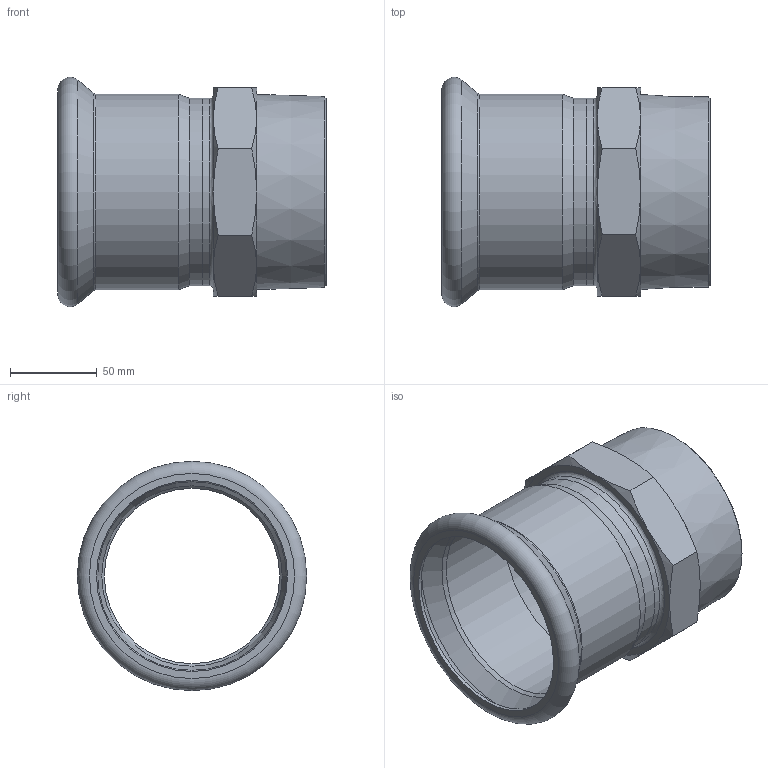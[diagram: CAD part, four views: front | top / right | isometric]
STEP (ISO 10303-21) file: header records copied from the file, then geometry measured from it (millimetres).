
FILE_DESCRIPTION((''),'2;1');
FILE_NAME('G:\Nirosan-Schmiedefeld\Technics\CAD\Bauteile VA\108\69243G1084(1).stp','2009-05-08T09:56:14',('herberg'),(''),'Autodesk Inventor 2009','Autodesk Inventor 2009','');
FILE_SCHEMA(('AUTOMOTIVE_DESIGN { 1 0 10303 214 1 1 1 1 }'));
Length unit declared in the file: millimetre
Products named in the file (3): 69243G1084(1); HM_69243108(0); AG1084(1)
Assembly tree (2 placements, depth 2):
  69243G1084(1)
    HM_69243108(0)
    AG1084(1)
Bounding box: 154.5 x 132.19 x 132.19 mm (x, y, z)
Volume: 228767.4 mm3; surface area: 122920.5 mm2
Topology: 2 solids, 2 shells, 52 faces, 108 edges, 63 vertices
Faces by surface type: cone 23, plane 15, cylinder 6, bspline 6, torus 2
Full cylindrical faces by diameter (mm): 104 x1, 108 x2, 108.7 x1, 110 x1, 112.7 x1
Entity records: 1435 total; most frequent: CARTESIAN_POINT 446, DIRECTION 196, ORIENTED_EDGE 166, AXIS2_PLACEMENT_3D 94, EDGE_CURVE 83, EDGE_LOOP 80, VERTEX_POINT 59, FACE_OUTER_BOUND 52
